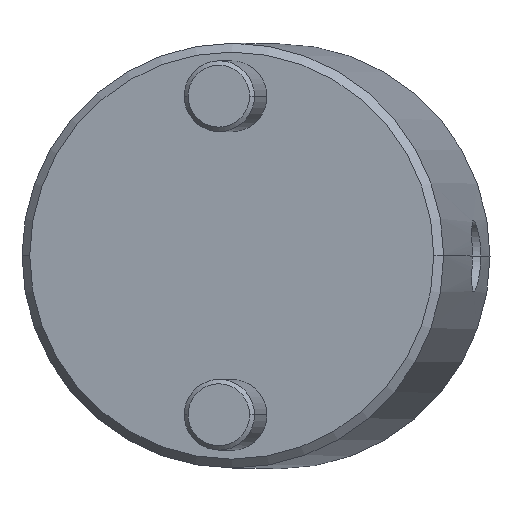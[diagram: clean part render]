
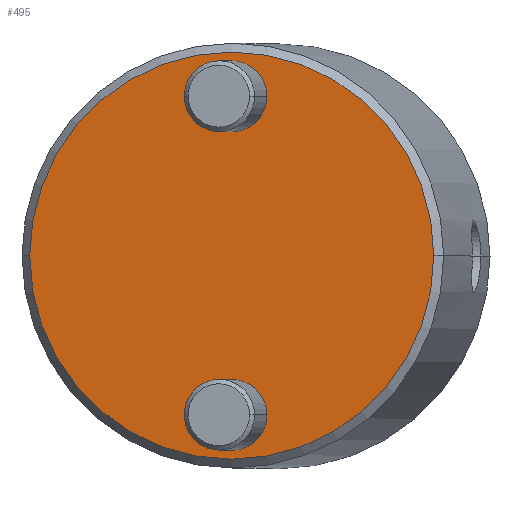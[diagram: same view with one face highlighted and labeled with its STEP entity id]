
A CAD part, top view. The second image highlights one B-rep face of the part: STEP entity #495.
In plain terms, the highlighted planar face has unit normal (-0.122, 0, 0.993) as drawn and (0, 0, -1) by its records, which use the part's own axes.
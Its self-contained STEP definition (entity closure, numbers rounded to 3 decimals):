
#2 = CARTESIAN_POINT ( 'NONE',  ( 23., 0., 0. ) ) ;
#58 = CARTESIAN_POINT ( 'NONE',  ( -4., 18., 0. ) ) ;
#131 = CARTESIAN_POINT ( 'NONE',  ( 4., 18., 0. ) ) ;
#146 = CARTESIAN_POINT ( 'NONE',  ( 0., 0., 0. ) ) ;
#154 = DIRECTION ( 'NONE',  ( 1., 0., 0. ) ) ;
#157 = DIRECTION ( 'NONE',  ( 0., 0., -1. ) ) ;
#160 = CIRCLE ( 'NONE', #1036, 23. ) ;
#163 = CARTESIAN_POINT ( 'NONE',  ( 0., 18., 0. ) ) ;
#175 = VERTEX_POINT ( 'NONE', #2 ) ;
#200 = CIRCLE ( 'NONE', #496, 4. ) ;
#205 = DIRECTION ( 'NONE',  ( 1., 0., 0. ) ) ;
#257 = VERTEX_POINT ( 'NONE', #1146 ) ;
#289 = VERTEX_POINT ( 'NONE', #131 ) ;
#308 = EDGE_CURVE ( 'NONE', #807, #289, #1068, .T. ) ;
#386 = DIRECTION ( 'NONE',  ( -1., 0., 0. ) ) ;
#402 = ORIENTED_EDGE ( 'NONE', *, *, #658, .F. ) ;
#421 = AXIS2_PLACEMENT_3D ( 'NONE', #771, #775, #205 ) ;
#440 = EDGE_CURVE ( 'NONE', #1261, #257, #200, .T. ) ;
#495 = ADVANCED_FACE ( 'NONE', ( #1029, #843, #784 ), #1519, .F. ) ;
#496 = AXIS2_PLACEMENT_3D ( 'NONE', #847, #157, #963 ) ;
#521 = DIRECTION ( 'NONE',  ( -1., 0., 0. ) ) ;
#567 = EDGE_CURVE ( 'NONE', #257, #1261, #713, .T. ) ;
#578 = CARTESIAN_POINT ( 'NONE',  ( 0., 0., 0. ) ) ;
#592 = DIRECTION ( 'NONE',  ( 0., 0., 1. ) ) ;
#603 = VERTEX_POINT ( 'NONE', #962 ) ;
#649 = CARTESIAN_POINT ( 'NONE',  ( 0., 18., 0. ) ) ;
#658 = EDGE_CURVE ( 'NONE', #175, #603, #160, .T. ) ;
#713 = CIRCLE ( 'NONE', #1106, 4. ) ;
#771 = CARTESIAN_POINT ( 'NONE',  ( 0., 0., 0. ) ) ;
#775 = DIRECTION ( 'NONE',  ( 0., 0., 1. ) ) ;
#784 = FACE_OUTER_BOUND ( 'NONE', #1204, .T. ) ;
#801 = ORIENTED_EDGE ( 'NONE', *, *, #440, .F. ) ;
#807 = VERTEX_POINT ( 'NONE', #58 ) ;
#817 = CIRCLE ( 'NONE', #421, 23. ) ;
#843 = FACE_BOUND ( 'NONE', #880, .T. ) ;
#847 = CARTESIAN_POINT ( 'NONE',  ( 0., -18., 0. ) ) ;
#880 = EDGE_LOOP ( 'NONE', ( #801, #1303 ) ) ;
#902 = DIRECTION ( 'NONE',  ( -1., 0., 0. ) ) ;
#918 = DIRECTION ( 'NONE',  ( 1., 0., 0. ) ) ;
#938 = EDGE_CURVE ( 'NONE', #289, #807, #996, .T. ) ;
#962 = CARTESIAN_POINT ( 'NONE',  ( -23., 0., 0. ) ) ;
#963 = DIRECTION ( 'NONE',  ( -1., 0., 0. ) ) ;
#996 = CIRCLE ( 'NONE', #1417, 4. ) ;
#1012 = EDGE_CURVE ( 'NONE', #603, #175, #817, .T. ) ;
#1029 = FACE_BOUND ( 'NONE', #1353, .T. ) ;
#1036 = AXIS2_PLACEMENT_3D ( 'NONE', #146, #1308, #154 ) ;
#1068 = CIRCLE ( 'NONE', #1263, 4. ) ;
#1088 = CARTESIAN_POINT ( 'NONE',  ( 0., -18., 0. ) ) ;
#1096 = DIRECTION ( 'NONE',  ( 0., 0., -1. ) ) ;
#1106 = AXIS2_PLACEMENT_3D ( 'NONE', #1088, #1192, #386 ) ;
#1146 = CARTESIAN_POINT ( 'NONE',  ( 4., -18., 0. ) ) ;
#1189 = AXIS2_PLACEMENT_3D ( 'NONE', #578, #592, #918 ) ;
#1192 = DIRECTION ( 'NONE',  ( 0., 0., -1. ) ) ;
#1204 = EDGE_LOOP ( 'NONE', ( #402, #1434 ) ) ;
#1261 = VERTEX_POINT ( 'NONE', #1284 ) ;
#1263 = AXIS2_PLACEMENT_3D ( 'NONE', #163, #1096, #521 ) ;
#1284 = CARTESIAN_POINT ( 'NONE',  ( -4., -18., 0. ) ) ;
#1303 = ORIENTED_EDGE ( 'NONE', *, *, #567, .F. ) ;
#1308 = DIRECTION ( 'NONE',  ( 0., 0., 1. ) ) ;
#1353 = EDGE_LOOP ( 'NONE', ( #1377, #1511 ) ) ;
#1377 = ORIENTED_EDGE ( 'NONE', *, *, #308, .F. ) ;
#1417 = AXIS2_PLACEMENT_3D ( 'NONE', #649, #1468, #902 ) ;
#1434 = ORIENTED_EDGE ( 'NONE', *, *, #1012, .F. ) ;
#1468 = DIRECTION ( 'NONE',  ( 0., 0., -1. ) ) ;
#1511 = ORIENTED_EDGE ( 'NONE', *, *, #938, .F. ) ;
#1519 = PLANE ( 'NONE',  #1189 ) ;
